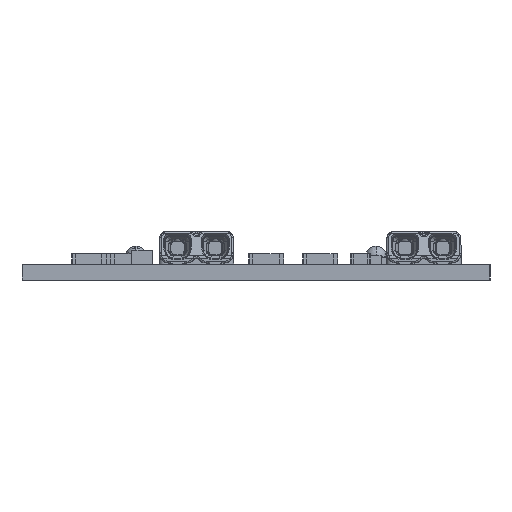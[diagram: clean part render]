
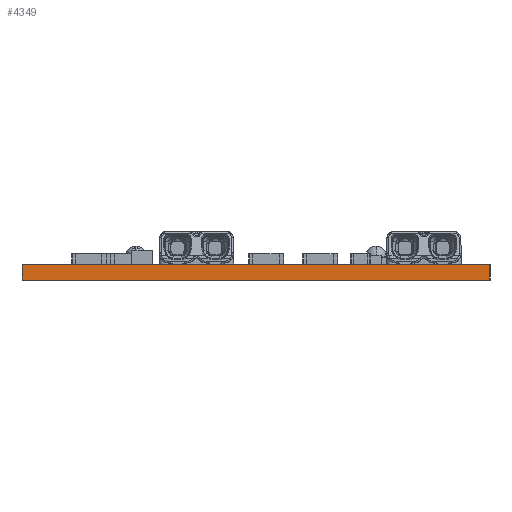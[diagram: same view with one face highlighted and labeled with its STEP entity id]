
A CAD part, left-side view. The second image highlights one B-rep face of the part: STEP entity #4349.
In plain terms, the highlighted planar face has unit normal (-1, 0, 0).
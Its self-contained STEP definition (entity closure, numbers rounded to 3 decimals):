
#90=DIRECTION('',(0.,-1.,0.));
#91=VECTOR('',#90,49.5);
#92=CARTESIAN_POINT('',(5.,54.5,0.));
#93=LINE('',#92,#91);
#1174=DIRECTION('',(0.,0.,1.));
#1175=VECTOR('',#1174,1.65);
#1176=CARTESIAN_POINT('',(5.,5.,-1.65));
#1177=LINE('',#1176,#1175);
#1181=DIRECTION('',(0.,0.,-1.));
#1182=VECTOR('',#1181,1.65);
#1183=CARTESIAN_POINT('',(5.,54.5,0.));
#1184=LINE('',#1183,#1182);
#1202=DIRECTION('',(0.,1.,0.));
#1203=VECTOR('',#1202,49.5);
#1204=CARTESIAN_POINT('',(5.,5.,-1.65));
#1205=LINE('',#1204,#1203);
#3358=CARTESIAN_POINT('',(5.,5.,-1.65));
#3359=CARTESIAN_POINT('',(5.,54.5,-1.65));
#3360=VERTEX_POINT('',#3358);
#3361=VERTEX_POINT('',#3359);
#3382=CARTESIAN_POINT('',(5.,54.5,0.));
#3383=VERTEX_POINT('',#3382);
#3398=CARTESIAN_POINT('',(5.,5.,0.));
#3399=VERTEX_POINT('',#3398);
#4336=CARTESIAN_POINT('',(5.,54.5,0.));
#4337=DIRECTION('',(-1.,0.,0.));
#4338=DIRECTION('',(0.,0.,1.));
#4339=AXIS2_PLACEMENT_3D('',#4336,#4337,#4338);
#4340=PLANE('',#4339);
#4342=ORIENTED_EDGE('',*,*,#4341,.F.);
#4344=ORIENTED_EDGE('',*,*,#4343,.T.);
#4345=ORIENTED_EDGE('',*,*,#4320,.F.);
#4346=ORIENTED_EDGE('',*,*,#3948,.T.);
#4347=EDGE_LOOP('',(#4342,#4344,#4345,#4346));
#4348=FACE_OUTER_BOUND('',#4347,.F.);
#3948=EDGE_CURVE('',#3383,#3399,#93,.T.);
#4320=EDGE_CURVE('',#3383,#3361,#1184,.T.);
#4341=EDGE_CURVE('',#3360,#3399,#1177,.T.);
#4343=EDGE_CURVE('',#3360,#3361,#1205,.T.);
#4349=ADVANCED_FACE('',(#4348),#4340,.T.);
